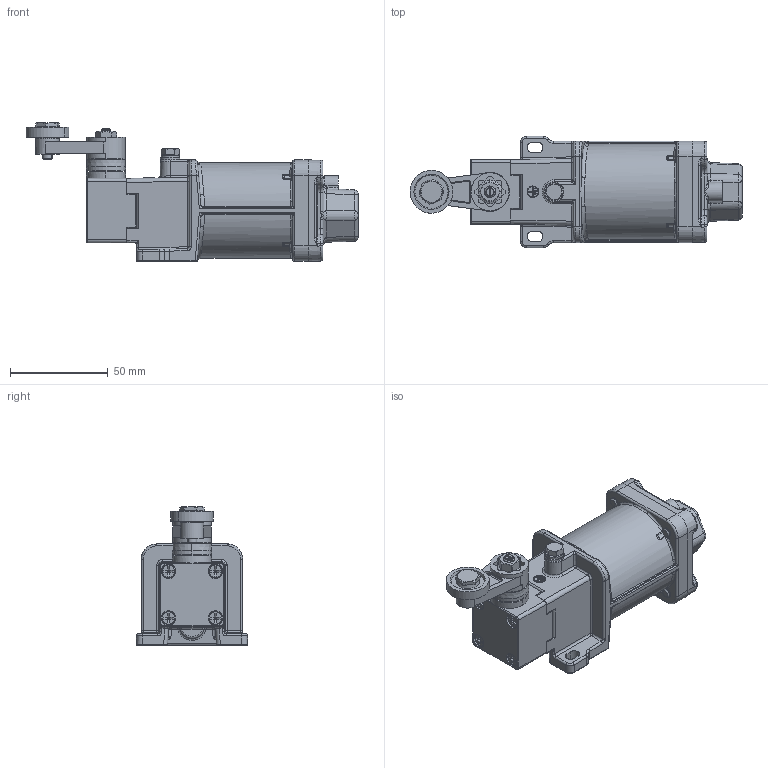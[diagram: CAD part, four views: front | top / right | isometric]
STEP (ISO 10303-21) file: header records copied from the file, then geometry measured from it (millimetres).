
FILE_DESCRIPTION((''),'2;1');
FILE_NAME('\\192.168.5.25\cortem_klient\INVENTOR БАЗА МОДЕЛЕЙ\Актуальная база моделей для отдела продаж\ДВГ-КВ\ДВГ-КВ-E42К1.stp','2019-11-25T09:10:43',('K.S.Bezzubikov'),(''),'Autodesk Inventor 2012','Autodesk Inventor 2012','');
FILE_SCHEMA(('AUTOMOTIVE_DESIGN { 1 0 10303 214 1 1 1 1 }'));
Length unit declared in the file: millimetre
Products named in the file (1): ДВГ-КВ-E42К1_М20х1,5_Внешний контур_1
Bounding box: 170.15 x 57 x 71.1 mm (x, y, z)
Volume: 156192.8 mm3; surface area: 78508.7 mm2
Topology: 2 solids, 26 shells, 1857 faces, 4441 edges, 2666 vertices
Faces by surface type: plane 787, cylinder 525, bspline 305, torus 135, cone 89, sphere 16
Full cylindrical faces by diameter (mm): 1.76 x1, 2.51 x1, 3 x1, 3.2 x5, 3.7 x1, 3.76 x1, 4.1 x1, 4.567 x1, 4.988 x8, 5 x5, 5.2 x4, 5.3 x1, 5.4 x5, 6 x1, 6.5 x1, 6.7 x1, 8.4 x1, 8.5 x4, 9.5 x4, 10 x1, 12 x1, 16 x1, 18.4 x1, 22 x1, 24.6 x1, 28.5 x1, 36.2 x1, 41.94 x1, 42 x1, 45.6 x1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
Entity records: 72802 total; most frequent: CARTESIAN_POINT 30266, ORIENTED_EDGE 8480, DIRECTION 8222, EDGE_CURVE 4240, AXIS2_PLACEMENT_3D 3062, VERTEX_POINT 2625, EDGE_LOOP 2099, VECTOR 2098
